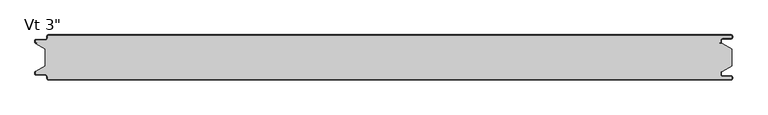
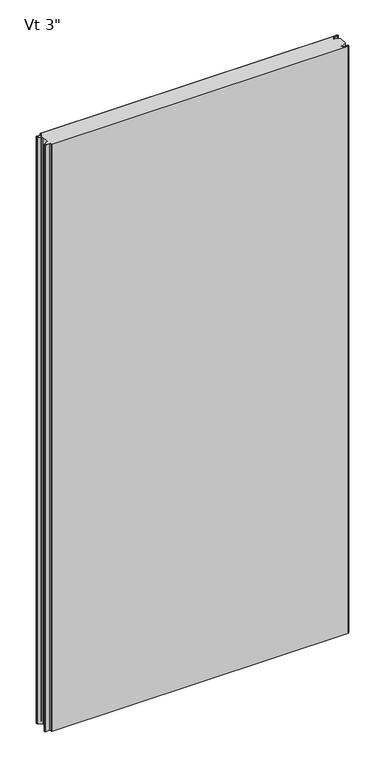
"""IFC4 building model written with IfcOpenShell, lengths in millimetres: plate geometry."""

from ifc_helpers import new_model, si_unit, frame, origin, place, context, project, spatial, polyline, circle_curve, source, transform, mapped, element, save
from ifc_brep_helpers import plane_surface, cylinder_surface, revolved_surface, advanced_brep


def plate_3d51e600(model_context):
    return source(origin(), model_context, "Body", "AdvancedBrep", [
        advanced_brep(
        [(-572.4125501, -73.2227194, 2400.0), (-570.4352761, -75.1999935, 2400.0), (574.5475652, -75.2, 2400.0), (576.5248337, -73.2227315, 2400.0), (576.5248337, -72.1806329, 2400.0), (574.5475652, -70.2033643, 2400.0), (560.3591802, -70.2033643, 2400.0), (557.7713036, -67.6154878, 2400.0), (557.7713036, -63.2950697, 2400.0), (557.1628365, -62.7060762, 2400.0), (554.7857432, -62.7060762, 2400.0), (554.7857432, -61.7066023, 2400.0), (560.2280123, -61.7066023, 2400.0), (576.2625, -52.4490865, 2400.0), (576.2625, -23.7509179, 2400.0), (560.2280123, -14.4933977, 2400.0), (554.7857432, -14.4933977, 2400.0), (554.7857432, -13.4939238, 2400.0), (557.1628365, -13.4939238, 2400.0), (557.7713036, -12.9049303, 2400.0), (557.7713036, -8.5845122, 2400.0), (560.3591802, -5.9966357, 2400.0), (574.5475652, -5.9966357, 2400.0), (576.5248337, -4.0193671, 2400.0), (576.5248337, -2.9772685, 2400.0), (574.5475652, -1.0, 2400.0), (-570.4352761, -1.0, 2400.0), (-572.4125501, -2.9772806, 2400.0), (-572.4125501, -5.2691705, 2400.0), (-576.3898173, -9.2464377, 2400.0), (-591.9862417, -9.2464377, 2400.0), (-592.5741186, -9.8343146, 2400.0), (-592.5741186, -12.9058635, 2400.0), (-591.986242, -13.4937402, 2400.0), (-589.6312064, -13.4937402, 2400.0), (-589.6312064, -14.4937402, 2400.0), (-591.9207851, -14.4937402, 2400.0), (-576.2625, -23.7509135, 2400.0), (-576.2625, -52.4490865, 2400.0), (-591.9207851, -61.7062598, 2400.0), (-589.6312064, -61.7062598, 2400.0), (-589.6312064, -62.7062598, 2400.0), (-591.986242, -62.7062598, 2400.0), (-592.5741186, -63.2941365, 2400.0), (-592.5741186, -66.3656854, 2400.0), (-591.9862417, -66.9535623, 2400.0), (-576.3898173, -66.9535623, 2400.0), (-572.4125501, -70.9308295, 2400.0), (-572.4125501, -73.2227194, 0.0), (-572.4125501, -70.9308295, 0.0), (-576.3898173, -66.9535623, 0.0), (-591.9862417, -66.9535623, 0.0), (-592.5741186, -66.3656854, 0.0), (-592.5741186, -63.2941365, 0.0), (-591.986242, -62.7062598, 0.0), (-589.6312064, -62.7062598, 0.0), (-589.6312064, -61.7062598, 0.0), (-591.9207851, -61.7062598, 0.0), (-576.2625, -52.4490865, 0.0), (-576.2625, -23.7509179, 0.0), (-591.9207851, -14.4937402, 0.0), (-589.6312064, -14.4937402, 0.0), (-589.6312064, -13.4937402, 0.0), (-591.986242, -13.4937402, 0.0), (-592.5741186, -12.9058635, 0.0), (-592.5741186, -9.8343146, 0.0), (-591.9862417, -9.2464377, 0.0), (-576.3898173, -9.2464377, 0.0), (-572.4125501, -5.2691705, 0.0), (-572.4125501, -2.9772806, 0.0), (-570.4352761, -1.0000065, 0.0), (574.5475652, -1.0, 0.0), (576.5248337, -2.9772685, 0.0), (576.5248337, -4.0193671, 0.0), (574.5475652, -5.9966357, 0.0), (560.3591802, -5.9966357, 0.0), (557.7713036, -8.5845122, 0.0), (557.7713036, -12.9049303, 0.0), (557.1628365, -13.4939238, 0.0), (554.7857432, -13.4939238, 0.0), (554.7857432, -14.4933977, 0.0), (560.2280123, -14.4933977, 0.0), (576.2625, -23.7509135, 0.0), (576.2625, -52.4490865, 0.0), (560.2280123, -61.7066023, 0.0), (554.7857432, -61.7066023, 0.0), (554.7857432, -62.7060762, 0.0), (557.1628365, -62.7060762, 0.0), (557.7713036, -63.2950697, 0.0), (557.7713036, -67.6154878, 0.0), (560.3591802, -70.2033643, 0.0), (574.5475652, -70.2033643, 0.0), (576.5248337, -72.1806329, 0.0), (576.5248337, -73.2227315, 0.0), (574.5475652, -75.2, 0.0), (-570.4352761, -75.2, 0.0)],
        [
            (0, 1, circle_curve(frame((-570.4352761, -73.2227194, 2400.0), z_axis=(0.0, 0.0, 1.0), x_axis=(-1.0, 0.0, 0.0)), 1.977274)),
            (1, 2),
            (2, 3, circle_curve(frame((574.5475652, -73.2227315, 2400.0), z_axis=(0.0, 0.0, 1.0), x_axis=(-1.0, 0.0, 0.0)), 1.9772685)),
            (3, 4),
            (4, 5, circle_curve(frame((574.5475652, -72.1806329, 2400.0), z_axis=(0.0, 0.0, 1.0), x_axis=(-1.0, 0.0, 0.0)), 1.9772685)),
            (5, 6),
            (6, 7, circle_curve(frame((560.3591802, -67.6154878, 2400.0), z_axis=(0.0, 0.0, -1.0), x_axis=(-1.0, 0.0, 0.0)), 2.5878765)),
            (7, 8),
            (8, 9, circle_curve(frame((557.1819985, -63.2950697, 2400.0), z_axis=(0.0, 0.0, 1.0), x_axis=(-1.0, 0.0, 0.0)), 0.5893051)),
            (9, 10),
            (10, 11),
            (11, 12),
            (12, 13),
            (13, 14),
            (14, 15),
            (15, 16),
            (16, 17),
            (17, 18),
            (18, 19, circle_curve(frame((557.1819985, -12.9049303, 2400.0), z_axis=(0.0, 0.0, 1.0), x_axis=(0.0, 1.0, 0.0)), 0.5893051)),
            (19, 20),
            (20, 21, circle_curve(frame((560.3591802, -8.5845122, 2400.0), z_axis=(0.0, 0.0, -1.0), x_axis=(0.0, 1.0, 0.0)), 2.5878765)),
            (21, 22),
            (22, 23, circle_curve(frame((574.5475652, -4.0193671, 2400.0), z_axis=(0.0, 0.0, 1.0), x_axis=(0.0, 1.0, 0.0)), 1.9772685)),
            (23, 24),
            (24, 25, circle_curve(frame((574.5475652, -2.9772685, 2400.0), z_axis=(0.0, 0.0, 1.0), x_axis=(0.0, 1.0, 0.0)), 1.9772685)),
            (25, 26),
            (26, 27, circle_curve(frame((-570.4352761, -2.9772806, 2400.0), z_axis=(0.0, 0.0, 1.0), x_axis=(0.0, 1.0, 0.0)), 1.977274)),
            (27, 28),
            (28, 29, circle_curve(frame((-576.3898173, -5.2691705, 2400.0), z_axis=(0.0, 0.0, -1.0), x_axis=(0.0, 1.0, 0.0)), 3.9772671)),
            (29, 30),
            (30, 31, circle_curve(frame((-591.9862417, -9.8343146, 2400.0), z_axis=(0.0, 0.0, 1.0), x_axis=(0.0, 1.0, 0.0)), 0.5878769)),
            (31, 32),
            (32, 33, circle_curve(frame((-591.986242, -12.9058635, 2400.0), z_axis=(0.0, 0.0, 1.0), x_axis=(0.0, 1.0, 0.0)), 0.5878766)),
            (33, 34),
            (34, 35),
            (35, 36),
            (36, 37),
            (37, 38),
            (38, 39),
            (39, 40),
            (40, 41),
            (41, 42),
            (42, 43, circle_curve(frame((-591.986242, -63.2941365, 2400.0), z_axis=(0.0, 0.0, 1.0), x_axis=(-1.0, 0.0, 0.0)), 0.5878766)),
            (43, 44),
            (44, 45, circle_curve(frame((-591.9862417, -66.3656854, 2400.0), z_axis=(0.0, 0.0, 1.0), x_axis=(-1.0, 0.0, 0.0)), 0.5878769)),
            (45, 46),
            (46, 47, circle_curve(frame((-576.3898173, -70.9308295, 2400.0), z_axis=(0.0, 0.0, -1.0), x_axis=(-1.0, 0.0, 0.0)), 3.9772671)),
            (47, 0),
            (48, 49),
            (49, 50, circle_curve(frame((-576.3898173, -70.9308295, 0.0), z_axis=(0.0, 0.0, 1.0), x_axis=(-1.0, 0.0, 0.0)), 3.9772671)),
            (50, 51),
            (51, 52, circle_curve(frame((-591.9862417, -66.3656854, 0.0), z_axis=(0.0, 0.0, -1.0), x_axis=(-1.0, 0.0, 0.0)), 0.5878769)),
            (52, 53),
            (53, 54, circle_curve(frame((-591.986242, -63.2941365, 0.0), z_axis=(0.0, 0.0, -1.0), x_axis=(-1.0, 0.0, 0.0)), 0.5878766)),
            (54, 55),
            (55, 56),
            (56, 57),
            (57, 58),
            (58, 59),
            (59, 60),
            (60, 61),
            (61, 62),
            (62, 63),
            (63, 64, circle_curve(frame((-591.986242, -12.9058635, 0.0), z_axis=(0.0, 0.0, -1.0), x_axis=(0.0, 1.0, 0.0)), 0.5878766)),
            (64, 65),
            (65, 66, circle_curve(frame((-591.9862417, -9.8343146, 0.0), z_axis=(0.0, 0.0, -1.0), x_axis=(0.0, 1.0, 0.0)), 0.5878769)),
            (66, 67),
            (67, 68, circle_curve(frame((-576.3898173, -5.2691705, 0.0), z_axis=(0.0, 0.0, 1.0), x_axis=(0.0, 1.0, 0.0)), 3.9772671)),
            (68, 69),
            (69, 70, circle_curve(frame((-570.4352761, -2.9772806, 0.0), z_axis=(0.0, 0.0, -1.0), x_axis=(0.0, 1.0, 0.0)), 1.977274)),
            (70, 71),
            (71, 72, circle_curve(frame((574.5475652, -2.9772685, 0.0), z_axis=(0.0, 0.0, -1.0), x_axis=(0.0, 1.0, 0.0)), 1.9772685)),
            (72, 73),
            (73, 74, circle_curve(frame((574.5475652, -4.0193671, 0.0), z_axis=(0.0, 0.0, -1.0), x_axis=(0.0, 1.0, 0.0)), 1.9772685)),
            (74, 75),
            (75, 76, circle_curve(frame((560.3591802, -8.5845122, 0.0), z_axis=(0.0, 0.0, 1.0), x_axis=(0.0, 1.0, 0.0)), 2.5878765)),
            (76, 77),
            (77, 78, circle_curve(frame((557.1819985, -12.9049303, 0.0), z_axis=(0.0, 0.0, -1.0), x_axis=(0.0, 1.0, 0.0)), 0.5893051)),
            (78, 79),
            (79, 80),
            (80, 81),
            (81, 82),
            (82, 83),
            (83, 84),
            (84, 85),
            (85, 86),
            (86, 87),
            (87, 88, circle_curve(frame((557.1819985, -63.2950697, 0.0), z_axis=(0.0, 0.0, -1.0), x_axis=(-1.0, 0.0, 0.0)), 0.5893051)),
            (88, 89),
            (89, 90, circle_curve(frame((560.3591802, -67.6154878, 0.0), z_axis=(0.0, 0.0, 1.0), x_axis=(-1.0, 0.0, 0.0)), 2.5878765)),
            (90, 91),
            (91, 92, circle_curve(frame((574.5475652, -72.1806329, 0.0), z_axis=(0.0, 0.0, -1.0), x_axis=(-1.0, 0.0, 0.0)), 1.9772685)),
            (92, 93),
            (93, 94, circle_curve(frame((574.5475652, -73.2227315, 0.0), z_axis=(0.0, 0.0, -1.0), x_axis=(-1.0, 0.0, 0.0)), 1.9772685)),
            (94, 95),
            (95, 48, circle_curve(frame((-570.4352761, -73.2227194, 0.0), z_axis=(0.0, 0.0, -1.0), x_axis=(-1.0, 0.0, 0.0)), 1.977274)),
            (37, 59),
            (58, 38),
            (13, 83),
            (82, 14),
            (47, 49),
            (48, 0),
            (46, 50),
            (45, 51),
            (44, 52),
            (43, 53),
            (42, 54),
            (41, 55),
            (40, 56),
            (39, 57),
            (12, 84),
            (11, 85),
            (10, 86),
            (9, 87),
            (8, 88),
            (7, 89),
            (6, 90),
            (5, 91),
            (4, 92),
            (3, 93),
            (2, 94),
            (1, 95),
            (26, 70),
            (69, 27),
            (25, 71),
            (24, 72),
            (23, 73),
            (22, 74),
            (21, 75),
            (20, 76),
            (19, 77),
            (18, 78),
            (17, 79),
            (16, 80),
            (15, 81),
            (36, 60),
            (35, 61),
            (34, 62),
            (33, 63),
            (32, 64),
            (31, 65),
            (30, 66),
            (29, 67),
            (28, 68),
        ],
        [
            plane_surface(frame((0.0, -75.2, 2400.0), z_axis=(0.0, 0.0, 1.0), x_axis=(0.0, -1.0, 0.0))),
            plane_surface(frame((0.0, -75.2, 0.0), z_axis=(0.0, 0.0, -1.0), x_axis=(0.0, -1.0, 0.0))),
            plane_surface(frame((-576.2625, -52.4490865, 2400.0), z_axis=(-1.0, 0.0, 0.0), x_axis=(0.0, 0.0, -1.0))),
            plane_surface(frame((576.2625, -23.7509179, 2400.0), z_axis=(1.0, 0.0, 0.0), x_axis=(0.0, 0.0, -1.0))),
            plane_surface(frame((-572.4125501, -73.2227194, 2400.0), z_axis=(-1.0, 0.0, 0.0), x_axis=(0.0, 0.0, -1.0))),
            revolved_surface(polyline([(-580.3670844, -70.9308295, 0.0), (-580.3670844, -70.9308295, 2400.0)]), (-576.3898173, -70.9308295, 2400.0), (0.0, 0.0, -1.0)),
            plane_surface(frame((-576.3898173, -66.9535623, 2400.0), z_axis=(0.0, -1.0, 0.0), x_axis=(0.0, 0.0, -1.0))),
            cylinder_surface(frame((-591.9862417, -66.3656854, 2400.0), z_axis=(0.0, 0.0, 1.0), x_axis=(-1.0, 0.0, 0.0)), 0.5878769),
            plane_surface(frame((-592.5741186, -66.3656854, 2400.0), z_axis=(-1.0, 0.0, 0.0), x_axis=(0.0, 0.0, -1.0))),
            cylinder_surface(frame((-591.986242, -63.2941365, 2400.0), z_axis=(0.0, 0.0, 1.0), x_axis=(-1.0, 0.0, 0.0)), 0.5878766),
            plane_surface(frame((-591.986242, -62.7062598, 2400.0), z_axis=(0.0, 1.0, 0.0), x_axis=(0.0, 0.0, -1.0))),
            plane_surface(frame((-589.6312064, -62.7062598, 2400.0), z_axis=(-1.0, 0.0, 0.0), x_axis=(0.0, 0.0, -1.0))),
            plane_surface(frame((-589.6312064, -61.7062598, 2400.0), z_axis=(0.0, -1.0, 0.0), x_axis=(0.0, 0.0, -1.0))),
            plane_surface(frame((-591.9207851, -61.7062598, 2400.0), z_axis=(-0.5089147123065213, 0.860816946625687, 0.0), x_axis=(0.0, 0.0, -1.0))),
            plane_surface(frame((576.2625, -52.4490865, 2400.0), z_axis=(0.500000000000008, -0.866025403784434, 0.0), x_axis=(0.0, 0.0, -1.0))),
            plane_surface(frame((560.2280123, -61.7066023, 2400.0), z_axis=(0.0, -1.0, 0.0), x_axis=(0.0, 0.0, -1.0))),
            plane_surface(frame((554.7857432, -61.7066023, 2400.0), z_axis=(1.0, 0.0, 0.0), x_axis=(0.0, 0.0, -1.0))),
            plane_surface(frame((554.7857432, -62.7060762, 2400.0), z_axis=(0.0, 1.0, 0.0), x_axis=(0.0, 0.0, -1.0))),
            cylinder_surface(frame((557.1819985, -63.2950697, 2400.0), z_axis=(0.0, 0.0, 1.0), x_axis=(-1.0, 0.0, 0.0)), 0.5893051),
            plane_surface(frame((557.7713036, -63.2950697, 2400.0), z_axis=(1.0, 0.0, 0.0), x_axis=(0.0, 0.0, -1.0))),
            revolved_surface(polyline([(557.7713037, -67.6154878, 0.0), (557.7713037, -67.6154878, 2400.0)]), (560.3591802, -67.6154878, 2400.0), (0.0, 0.0, -1.0)),
            plane_surface(frame((560.3591802, -70.2033643, 2400.0), z_axis=(0.0, 1.0, 0.0), x_axis=(0.0, 0.0, -1.0))),
            cylinder_surface(frame((574.5475652, -72.1806329, 2400.0), z_axis=(0.0, 0.0, 1.0), x_axis=(-1.0, 0.0, 0.0)), 1.9772685),
            plane_surface(frame((576.5248337, -72.1806329, 2400.0), z_axis=(1.0, 0.0, 0.0), x_axis=(0.0, 0.0, -1.0))),
            cylinder_surface(frame((574.5475652, -73.2227315, 2400.0), z_axis=(0.0, 0.0, 1.0), x_axis=(-1.0, 0.0, 0.0)), 1.9772685),
            plane_surface(frame((574.5475652, -75.2, 2400.0), z_axis=(0.0, -1.0, 0.0), x_axis=(0.0, 0.0, -1.0))),
            cylinder_surface(frame((-570.4352761, -73.2227194, 2400.0), z_axis=(0.0, 0.0, 1.0), x_axis=(-1.0, 0.0, 0.0)), 1.977274),
            cylinder_surface(frame((-570.4352761, -2.9772806, 2400.0), z_axis=(0.0, 0.0, 1.0), x_axis=(0.0, 1.0, 0.0)), 1.977274),
            plane_surface(frame((-570.4352761, -1.0, 2400.0), z_axis=(0.0, 1.0, 0.0), x_axis=(0.0, 0.0, -1.0))),
            cylinder_surface(frame((574.5475652, -2.9772685, 2400.0), z_axis=(0.0, 0.0, 1.0), x_axis=(0.0, 1.0, 0.0)), 1.9772685),
            plane_surface(frame((576.5248337, -2.9772685, 2400.0), z_axis=(1.0, 0.0, 0.0), x_axis=(0.0, 0.0, -1.0))),
            cylinder_surface(frame((574.5475652, -4.0193671, 2400.0), z_axis=(0.0, 0.0, 1.0), x_axis=(0.0, 1.0, 0.0)), 1.9772685),
            plane_surface(frame((574.5475652, -5.9966357, 2400.0), z_axis=(0.0, -1.0, 0.0), x_axis=(0.0, 0.0, -1.0))),
            revolved_surface(polyline([(560.3591802, -5.996635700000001, 0.0), (560.3591802, -5.996635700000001, 2400.0)]), (560.3591802, -8.5845122, 2400.0), (0.0, 0.0, -1.0)),
            plane_surface(frame((557.7713036, -8.5845122, 2400.0), z_axis=(1.0, 0.0, 0.0), x_axis=(0.0, 0.0, -1.0))),
            cylinder_surface(frame((557.1819985, -12.9049303, 2400.0), z_axis=(0.0, 0.0, 1.0), x_axis=(0.0, 1.0, 0.0)), 0.5893051),
            plane_surface(frame((557.1628365, -13.4939238, 2400.0), z_axis=(0.0, -1.0, 0.0), x_axis=(0.0, 0.0, -1.0))),
            plane_surface(frame((554.7857432, -13.4939238, 2400.0), z_axis=(1.0, 0.0, 0.0), x_axis=(0.0, 0.0, -1.0))),
            plane_surface(frame((554.7857432, -14.4933977, 2400.0), z_axis=(0.0, 1.0, 0.0), x_axis=(0.0, 0.0, -1.0))),
            plane_surface(frame((560.2280123, -14.4933977, 2400.0), z_axis=(0.5000000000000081, 0.866025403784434, 0.0), x_axis=(0.0, 0.0, -1.0))),
            plane_surface(frame((-576.2625, -23.7509135, 2400.0), z_axis=(-0.5089147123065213, -0.860816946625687, 0.0), x_axis=(0.0, 0.0, -1.0))),
            plane_surface(frame((-591.9207851, -14.4937402, 2400.0), z_axis=(0.0, 1.0, 0.0), x_axis=(0.0, 0.0, -1.0))),
            plane_surface(frame((-589.6312064, -14.4937402, 2400.0), z_axis=(-1.0, 0.0, 0.0), x_axis=(0.0, 0.0, -1.0))),
            plane_surface(frame((-589.6312064, -13.4937402, 2400.0), z_axis=(0.0, -1.0, 0.0), x_axis=(0.0, 0.0, -1.0))),
            cylinder_surface(frame((-591.986242, -12.9058635, 2400.0), z_axis=(0.0, 0.0, 1.0), x_axis=(0.0, 1.0, 0.0)), 0.5878766),
            plane_surface(frame((-592.5741186, -12.9058635, 2400.0), z_axis=(-1.0, 0.0, 0.0), x_axis=(0.0, 0.0, -1.0))),
            cylinder_surface(frame((-591.9862417, -9.8343146, 2400.0), z_axis=(0.0, 0.0, 1.0), x_axis=(0.0, 1.0, 0.0)), 0.5878769),
            plane_surface(frame((-591.9862417, -9.2464377, 2400.0), z_axis=(0.0, 1.0, 0.0), x_axis=(0.0, 0.0, -1.0))),
            revolved_surface(polyline([(-576.3898173, -1.2919034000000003, 0.0), (-576.3898173, -1.2919034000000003, 2400.0)]), (-576.3898173, -5.2691705, 2400.0), (0.0, 0.0, -1.0)),
            plane_surface(frame((-572.4125501, -5.2691705, 2400.0), z_axis=(-1.0, 0.0, 0.0), x_axis=(0.0, 0.0, -1.0))),
        ],
        [
            (0, [[1, 2, 3, 4, 5, 6, 7, 8, 9, 10, 11, 12, 13, 14, 15, 16, 17, 18, 19, 20, 21, 22, 23, 24, 25, 26, 27, 28, 29, 30, 31, 32, 33, 34, 35, 36, 37, 38, 39, 40, 41, 42, 43, 44, 45, 46, 47, 48]]),
            (1, [[49, 50, 51, 52, 53, 54, 55, 56, 57, 58, 59, 60, 61, 62, 63, 64, 65, 66, 67, 68, 69, 70, 71, 72, 73, 74, 75, 76, 77, 78, 79, 80, 81, 82, 83, 84, 85, 86, 87, 88, 89, 90, 91, 92, 93, 94, 95, 96]]),
            (2, [[97, -59, 98, -38]]),
            (3, [[99, -83, 100, -14]]),
            (4, [[101, -49, 102, -48]]),
            (5, [[103, -50, -101, -47]]),
            (6, [[104, -51, -103, -46]]),
            (7, [[105, -52, -104, -45]]),
            (8, [[106, -53, -105, -44]]),
            (9, [[107, -54, -106, -43]]),
            (10, [[108, -55, -107, -42]]),
            (11, [[109, -56, -108, -41]]),
            (12, [[110, -57, -109, -40]]),
            (13, [[-98, -58, -110, -39]]),
            (14, [[111, -84, -99, -13]]),
            (15, [[112, -85, -111, -12]]),
            (16, [[113, -86, -112, -11]]),
            (17, [[114, -87, -113, -10]]),
            (18, [[115, -88, -114, -9]]),
            (19, [[116, -89, -115, -8]]),
            (20, [[117, -90, -116, -7]]),
            (21, [[118, -91, -117, -6]]),
            (22, [[119, -92, -118, -5]]),
            (23, [[120, -93, -119, -4]]),
            (24, [[121, -94, -120, -3]]),
            (25, [[122, -95, -121, -2]]),
            (26, [[-102, -96, -122, -1]]),
            (27, [[123, -70, 124, -27]]),
            (28, [[125, -71, -123, -26]]),
            (29, [[126, -72, -125, -25]]),
            (30, [[127, -73, -126, -24]]),
            (31, [[128, -74, -127, -23]]),
            (32, [[129, -75, -128, -22]]),
            (33, [[130, -76, -129, -21]]),
            (34, [[131, -77, -130, -20]]),
            (35, [[132, -78, -131, -19]]),
            (36, [[133, -79, -132, -18]]),
            (37, [[134, -80, -133, -17]]),
            (38, [[135, -81, -134, -16]]),
            (39, [[-100, -82, -135, -15]]),
            (40, [[136, -60, -97, -37]]),
            (41, [[137, -61, -136, -36]]),
            (42, [[138, -62, -137, -35]]),
            (43, [[139, -63, -138, -34]]),
            (44, [[140, -64, -139, -33]]),
            (45, [[141, -65, -140, -32]]),
            (46, [[142, -66, -141, -31]]),
            (47, [[143, -67, -142, -30]]),
            (48, [[144, -68, -143, -29]]),
            (49, [[-124, -69, -144, -28]]),
        ],
    ),
        advanced_brep(
        [(-572.4123937, -2.9776189, 2400.0), (-570.4354837, -1.0007088, 2400.0), (574.550337, -1.0007088, 2400.0), (576.5262182, -2.97659, 2400.0), (576.5262182, -4.019022, 2400.0), (574.5482568, -5.9969834, 2400.0), (560.3590971, -5.9969834, 2400.0), (557.7713971, -8.5846834, 2400.0), (557.7713971, -12.9049158, 2400.0), (557.1628599, -13.4939528, 2400.0), (554.7857432, -13.4939528, 2400.0), (554.7857432, -14.4933977, 2400.0), (557.1304042, -14.4933977, 2400.0), (558.7713036, -12.9049303, 2400.0), (558.7713036, -8.5845122, 2400.0), (560.3591801, -6.9966356, 2400.0), (574.5475652, -6.9966356, 2400.0), (577.5248337, -4.0193671, 2400.0), (577.5248337, -2.9772685, 2400.0), (574.5475652, 0.0, 2400.0), (-570.4352789, 0.0, 2400.0), (-573.4125474, -2.977286, 2400.0), (-573.4125474, -5.2691698, 2400.0), (-576.3898159, -8.2464384, 2400.0), (-591.9862419, -8.2464384, 2400.0), (-593.5741185, -9.8343149, 2400.0), (-593.5741185, -12.9058636, 2400.0), (-591.9862419, -14.4937401, 2400.0), (-589.6312064, -14.4937401, 2400.0), (-589.6312064, -13.4937365, 2400.0), (-591.9862374, -13.4937365, 2400.0), (-592.5741086, -12.9058654, 2400.0), (-592.5741086, -9.834334, 2400.0), (-591.9862514, -9.2464768, 2400.0), (-576.3897391, -9.2464768, 2400.0), (-572.4123937, -5.2691315, 2400.0), (-572.4123937, -2.9776189, 0.0), (-572.4123937, -5.2691315, 0.0), (-576.3897391, -9.2464768, 0.0), (-591.9862514, -9.2464768, 0.0), (-592.5741086, -9.834334, 0.0), (-592.5741086, -12.9058654, 0.0), (-591.9862374, -13.4937365, 0.0), (-589.6312064, -13.4937365, 0.0), (-589.6312064, -14.4937401, 0.0), (-591.9862419, -14.4937401, 0.0), (-593.5741185, -12.9058636, 0.0), (-593.5741185, -9.8343149, 0.0), (-591.9862419, -8.2464384, 0.0), (-576.3898159, -8.2464384, 0.0), (-573.4125474, -5.2691698, 0.0), (-573.4125474, -2.977286, 0.0), (-570.4352789, -1.75e-05, 0.0), (574.5475652, 0.0, 0.0), (577.5248337, -2.9772685, 0.0), (577.5248337, -4.0193671, 0.0), (574.5475652, -6.9966356, 0.0), (560.3591801, -6.9966356, 0.0), (558.7713036, -8.5845122, 0.0), (558.7713036, -12.9049303, 0.0), (557.1304042, -14.4933977, 0.0), (554.7857432, -14.4933977, 0.0), (554.7857432, -13.4939528, 0.0), (557.1628599, -13.4939528, 0.0), (557.7713971, -12.9049158, 0.0), (557.7713971, -8.5846834, 0.0), (560.3590971, -5.9969834, 0.0), (574.5482568, -5.9969834, 0.0), (576.5262182, -4.019022, 0.0), (576.5262182, -2.97659, 0.0), (574.550337, -1.0007088, 0.0), (-570.4354837, -1.0007088, 0.0)],
        [
            (0, 1, circle_curve(frame((-570.4354837, -2.9776189, 2400.0), z_axis=(0.0, 0.0, -1.0), x_axis=(0.0, 1.0, 0.0)), 1.9769101)),
            (1, 2),
            (2, 3, circle_curve(frame((574.550337, -2.97659, 2400.0), z_axis=(0.0, 0.0, -1.0), x_axis=(0.0, 1.0, 0.0)), 1.9758812)),
            (3, 4),
            (4, 5, circle_curve(frame((574.5482568, -4.019022, 2400.0), z_axis=(0.0, 0.0, -1.0), x_axis=(0.0, 1.0, 0.0)), 1.9779614)),
            (5, 6),
            (6, 7, circle_curve(frame((560.3590971, -8.5846834, 2400.0), z_axis=(0.0, 0.0, 1.0), x_axis=(0.0, 1.0, 0.0)), 2.5877)),
            (7, 8),
            (8, 9, circle_curve(frame((557.1820477, -12.9049158, 2400.0), z_axis=(0.0, 0.0, -1.0), x_axis=(0.0, 1.0, 0.0)), 0.5893495)),
            (9, 10),
            (10, 11),
            (11, 12),
            (12, 13, circle_curve(frame((557.1819985, -12.9049303, 2400.0), z_axis=(0.0, 0.0, 1.0), x_axis=(0.0, 1.0, 0.0)), 1.5893051)),
            (13, 14),
            (14, 15, circle_curve(frame((560.3591801, -8.5845122, 2400.0), z_axis=(0.0, 0.0, -1.0), x_axis=(0.0, 1.0, 0.0)), 1.5878765)),
            (15, 16),
            (16, 17, circle_curve(frame((574.5475652, -4.0193671, 2400.0), z_axis=(0.0, 0.0, 1.0), x_axis=(0.0, 1.0, 0.0)), 2.9772685)),
            (17, 18),
            (18, 19, circle_curve(frame((574.5475652, -2.9772685, 2400.0), z_axis=(0.0, 0.0, 1.0), x_axis=(0.0, 1.0, 0.0)), 2.9772685)),
            (19, 20),
            (20, 21, circle_curve(frame((-570.4352789, -2.977286, 2400.0), z_axis=(0.0, 0.0, 1.0), x_axis=(0.0, 1.0, 0.0)), 2.9772685)),
            (21, 22),
            (22, 23, circle_curve(frame((-576.3898159, -5.2691698, 2400.0), z_axis=(0.0, 0.0, -1.0), x_axis=(0.0, 1.0, 0.0)), 2.9772685)),
            (23, 24),
            (24, 25, circle_curve(frame((-591.9862419, -9.8343149, 2400.0), z_axis=(0.0, 0.0, 1.0), x_axis=(0.0, 1.0, 0.0)), 1.5878765)),
            (25, 26),
            (26, 27, circle_curve(frame((-591.9862419, -12.9058636, 2400.0), z_axis=(0.0, 0.0, 1.0), x_axis=(0.0, 1.0, 0.0)), 1.5878765)),
            (27, 28),
            (28, 29),
            (29, 30),
            (30, 31, circle_curve(frame((-591.9862374, -12.9058654, 2400.0), z_axis=(0.0, 0.0, -1.0), x_axis=(0.0, 1.0, 0.0)), 0.5878711)),
            (31, 32),
            (32, 33, circle_curve(frame((-591.9862514, -9.834334, 2400.0), z_axis=(0.0, 0.0, -1.0), x_axis=(0.0, 1.0, 0.0)), 0.5878572)),
            (33, 34),
            (34, 35, circle_curve(frame((-576.3897391, -5.2691315, 2400.0), z_axis=(0.0, 0.0, 1.0), x_axis=(0.0, 1.0, 0.0)), 3.9773454)),
            (35, 0),
            (36, 37),
            (37, 38, circle_curve(frame((-576.3897391, -5.2691315, 0.0), z_axis=(0.0, 0.0, -1.0), x_axis=(0.0, 1.0, 0.0)), 3.9773454)),
            (38, 39),
            (39, 40, circle_curve(frame((-591.9862514, -9.834334, 0.0), z_axis=(0.0, 0.0, 1.0), x_axis=(0.0, 1.0, 0.0)), 0.5878572)),
            (40, 41),
            (41, 42, circle_curve(frame((-591.9862374, -12.9058654, 0.0), z_axis=(0.0, 0.0, 1.0), x_axis=(0.0, 1.0, 0.0)), 0.5878711)),
            (42, 43),
            (43, 44),
            (44, 45),
            (45, 46, circle_curve(frame((-591.9862419, -12.9058636, 0.0), z_axis=(0.0, 0.0, -1.0), x_axis=(0.0, 1.0, 0.0)), 1.5878765)),
            (46, 47),
            (47, 48, circle_curve(frame((-591.9862419, -9.8343149, 0.0), z_axis=(0.0, 0.0, -1.0), x_axis=(0.0, 1.0, 0.0)), 1.5878765)),
            (48, 49),
            (49, 50, circle_curve(frame((-576.3898159, -5.2691698, 0.0), z_axis=(0.0, 0.0, 1.0), x_axis=(0.0, 1.0, 0.0)), 2.9772685)),
            (50, 51),
            (51, 52, circle_curve(frame((-570.4352789, -2.977286, 0.0), z_axis=(0.0, 0.0, -1.0), x_axis=(0.0, 1.0, 0.0)), 2.9772685)),
            (52, 53),
            (53, 54, circle_curve(frame((574.5475652, -2.9772685, 0.0), z_axis=(0.0, 0.0, -1.0), x_axis=(0.0, 1.0, 0.0)), 2.9772685)),
            (54, 55),
            (55, 56, circle_curve(frame((574.5475652, -4.0193671, 0.0), z_axis=(0.0, 0.0, -1.0), x_axis=(0.0, 1.0, 0.0)), 2.9772685)),
            (56, 57),
            (57, 58, circle_curve(frame((560.3591801, -8.5845122, 0.0), z_axis=(0.0, 0.0, 1.0), x_axis=(0.0, 1.0, 0.0)), 1.5878765)),
            (58, 59),
            (59, 60, circle_curve(frame((557.1819985, -12.9049303, 0.0), z_axis=(0.0, 0.0, -1.0), x_axis=(0.0, 1.0, 0.0)), 1.5893051)),
            (60, 61),
            (61, 62),
            (62, 63),
            (63, 64, circle_curve(frame((557.1820477, -12.9049158, 0.0), z_axis=(0.0, 0.0, 1.0), x_axis=(0.0, 1.0, 0.0)), 0.5893495)),
            (64, 65),
            (65, 66, circle_curve(frame((560.3590971, -8.5846834, 0.0), z_axis=(0.0, 0.0, -1.0), x_axis=(0.0, 1.0, 0.0)), 2.5877)),
            (66, 67),
            (67, 68, circle_curve(frame((574.5482568, -4.019022, 0.0), z_axis=(0.0, 0.0, 1.0), x_axis=(0.0, 1.0, 0.0)), 1.9779614)),
            (68, 69),
            (69, 70, circle_curve(frame((574.550337, -2.97659, 0.0), z_axis=(0.0, 0.0, 1.0), x_axis=(0.0, 1.0, 0.0)), 1.9758812)),
            (70, 71),
            (71, 36, circle_curve(frame((-570.4354837, -2.9776189, 0.0), z_axis=(0.0, 0.0, 1.0), x_axis=(0.0, 1.0, 0.0)), 1.9769101)),
            (35, 37),
            (36, 0),
            (34, 38),
            (33, 39),
            (32, 40),
            (31, 41),
            (30, 42),
            (29, 43),
            (28, 44),
            (27, 45),
            (26, 46),
            (25, 47),
            (24, 48),
            (23, 49),
            (22, 50),
            (21, 51),
            (20, 52),
            (19, 53),
            (18, 54),
            (17, 55),
            (16, 56),
            (15, 57),
            (14, 58),
            (13, 59),
            (12, 60),
            (11, 61),
            (10, 62),
            (9, 63),
            (8, 64),
            (7, 65),
            (6, 66),
            (5, 67),
            (4, 68),
            (3, 69),
            (2, 70),
            (1, 71),
        ],
        [
            plane_surface(frame((0.0, 0.0, 2400.0), z_axis=(0.0, 0.0, 1.0), x_axis=(0.0, 1.0, 0.0))),
            plane_surface(frame((0.0, 0.0, 0.0), z_axis=(0.0, 0.0, -1.0), x_axis=(0.0, 1.0, 0.0))),
            plane_surface(frame((-572.4123937, -2.9776189, 2400.0), z_axis=(1.0, 0.0, 0.0), x_axis=(0.0, 0.0, -1.0))),
            cylinder_surface(frame((-576.3897391, -5.2691315, 2400.0), z_axis=(0.0, 0.0, 1.0), x_axis=(0.0, 1.0, 0.0)), 3.9773454),
            plane_surface(frame((-576.3897391, -9.2464768, 2400.0), z_axis=(0.0, -1.0, 0.0), x_axis=(0.0, 0.0, -1.0))),
            revolved_surface(polyline([(-591.9862514, -9.2464768, 0.0), (-591.9862514, -9.2464768, 2400.0)]), (-591.9862514, -9.834334, 2400.0), (0.0, 0.0, -1.0)),
            plane_surface(frame((-592.5741086, -9.834334, 2400.0), z_axis=(1.0, 0.0, 0.0), x_axis=(0.0, 0.0, -1.0))),
            revolved_surface(polyline([(-591.9862374, -12.3179943, 0.0), (-591.9862374, -12.3179943, 2400.0)]), (-591.9862374, -12.9058654, 2400.0), (0.0, 0.0, -1.0)),
            plane_surface(frame((-591.9862374, -13.4937365, 2400.0), z_axis=(0.0, 1.0, 0.0), x_axis=(0.0, 0.0, -1.0))),
            plane_surface(frame((-589.6312064, -13.4937365, 2400.0), z_axis=(1.0, 0.0, 0.0), x_axis=(0.0, 0.0, -1.0))),
            plane_surface(frame((-589.6312064, -14.4937401, 2400.0), z_axis=(0.0, -1.0, 0.0), x_axis=(0.0, 0.0, -1.0))),
            cylinder_surface(frame((-591.9862419, -12.9058636, 2400.0), z_axis=(0.0, 0.0, 1.0), x_axis=(0.0, 1.0, 0.0)), 1.5878765),
            plane_surface(frame((-593.5741185, -12.9058636, 2400.0), z_axis=(-1.0, 0.0, 0.0), x_axis=(0.0, 0.0, -1.0))),
            cylinder_surface(frame((-591.9862419, -9.8343149, 2400.0), z_axis=(0.0, 0.0, 1.0), x_axis=(0.0, 1.0, 0.0)), 1.5878765),
            plane_surface(frame((-591.9862419, -8.2464384, 2400.0), z_axis=(0.0, 1.0, 0.0), x_axis=(0.0, 0.0, -1.0))),
            revolved_surface(polyline([(-576.3898159, -2.2919013, 0.0), (-576.3898159, -2.2919013, 2400.0)]), (-576.3898159, -5.2691698, 2400.0), (0.0, 0.0, -1.0)),
            plane_surface(frame((-573.4125474, -5.2691698, 2400.0), z_axis=(-1.0, 0.0, 0.0), x_axis=(0.0, 0.0, -1.0))),
            cylinder_surface(frame((-570.4352789, -2.977286, 2400.0), z_axis=(0.0, 0.0, 1.0), x_axis=(0.0, 1.0, 0.0)), 2.9772685),
            plane_surface(frame((-570.4352789, 0.0, 2400.0), z_axis=(0.0, 1.0, 0.0), x_axis=(0.0, 0.0, -1.0))),
            cylinder_surface(frame((574.5475652, -2.9772685, 2400.0), z_axis=(0.0, 0.0, 1.0), x_axis=(0.0, 1.0, 0.0)), 2.9772685),
            plane_surface(frame((577.5248337, -2.9772685, 2400.0), z_axis=(1.0, 0.0, 0.0), x_axis=(0.0, 0.0, -1.0))),
            cylinder_surface(frame((574.5475652, -4.0193671, 2400.0), z_axis=(0.0, 0.0, 1.0), x_axis=(0.0, 1.0, 0.0)), 2.9772685),
            plane_surface(frame((574.5475652, -6.9966356, 2400.0), z_axis=(0.0, -1.0, 0.0), x_axis=(0.0, 0.0, -1.0))),
            revolved_surface(polyline([(560.3591801, -6.996635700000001, 0.0), (560.3591801, -6.996635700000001, 2400.0)]), (560.3591801, -8.5845122, 2400.0), (0.0, 0.0, -1.0)),
            plane_surface(frame((558.7713036, -8.5845122, 2400.0), z_axis=(1.0, 0.0, 0.0), x_axis=(0.0, 0.0, -1.0))),
            cylinder_surface(frame((557.1819985, -12.9049303, 2400.0), z_axis=(0.0, 0.0, 1.0), x_axis=(0.0, 1.0, 0.0)), 1.5893051),
            plane_surface(frame((557.1304042, -14.4933977, 2400.0), z_axis=(0.0, -1.0, 0.0), x_axis=(0.0, 0.0, -1.0))),
            plane_surface(frame((554.7857432, -14.4933977, 2400.0), z_axis=(-1.0, 0.0, 0.0), x_axis=(0.0, 0.0, -1.0))),
            plane_surface(frame((554.7857432, -13.4939528, 2400.0), z_axis=(0.0, 1.0, 0.0), x_axis=(0.0, 0.0, -1.0))),
            revolved_surface(polyline([(557.1820477, -12.3155663, 0.0), (557.1820477, -12.3155663, 2400.0)]), (557.1820477, -12.9049158, 2400.0), (0.0, 0.0, -1.0)),
            plane_surface(frame((557.7713971, -12.9049158, 2400.0), z_axis=(-1.0, 0.0, 0.0), x_axis=(0.0, 0.0, -1.0))),
            cylinder_surface(frame((560.3590971, -8.5846834, 2400.0), z_axis=(0.0, 0.0, 1.0), x_axis=(0.0, 1.0, 0.0)), 2.5877),
            plane_surface(frame((560.3590971, -5.9969834, 2400.0), z_axis=(0.0, 1.0, 0.0), x_axis=(0.0, 0.0, -1.0))),
            revolved_surface(polyline([(574.5482568, -2.0410606, 0.0), (574.5482568, -2.0410606, 2400.0)]), (574.5482568, -4.019022, 2400.0), (0.0, 0.0, -1.0)),
            plane_surface(frame((576.5262182, -4.019022, 2400.0), z_axis=(-1.0, 0.0, 0.0), x_axis=(0.0, 0.0, -1.0))),
            revolved_surface(polyline([(574.550337, -1.0007088, 0.0), (574.550337, -1.0007088, 2400.0)]), (574.550337, -2.97659, 2400.0), (0.0, 0.0, -1.0)),
            plane_surface(frame((574.550337, -1.0007088, 2400.0), z_axis=(0.0, -1.0, 0.0), x_axis=(0.0, 0.0, -1.0))),
            revolved_surface(polyline([(-570.4354837, -1.0007088, 0.0), (-570.4354837, -1.0007088, 2400.0)]), (-570.4354837, -2.9776189, 2400.0), (0.0, 0.0, -1.0)),
        ],
        [
            (0, [[1, 2, 3, 4, 5, 6, 7, 8, 9, 10, 11, 12, 13, 14, 15, 16, 17, 18, 19, 20, 21, 22, 23, 24, 25, 26, 27, 28, 29, 30, 31, 32, 33, 34, 35, 36]]),
            (1, [[37, 38, 39, 40, 41, 42, 43, 44, 45, 46, 47, 48, 49, 50, 51, 52, 53, 54, 55, 56, 57, 58, 59, 60, 61, 62, 63, 64, 65, 66, 67, 68, 69, 70, 71, 72]]),
            (2, [[73, -37, 74, -36]]),
            (3, [[75, -38, -73, -35]]),
            (4, [[76, -39, -75, -34]]),
            (5, [[77, -40, -76, -33]]),
            (6, [[78, -41, -77, -32]]),
            (7, [[79, -42, -78, -31]]),
            (8, [[80, -43, -79, -30]]),
            (9, [[81, -44, -80, -29]]),
            (10, [[82, -45, -81, -28]]),
            (11, [[83, -46, -82, -27]]),
            (12, [[84, -47, -83, -26]]),
            (13, [[85, -48, -84, -25]]),
            (14, [[86, -49, -85, -24]]),
            (15, [[87, -50, -86, -23]]),
            (16, [[88, -51, -87, -22]]),
            (17, [[89, -52, -88, -21]]),
            (18, [[90, -53, -89, -20]]),
            (19, [[91, -54, -90, -19]]),
            (20, [[92, -55, -91, -18]]),
            (21, [[93, -56, -92, -17]]),
            (22, [[94, -57, -93, -16]]),
            (23, [[95, -58, -94, -15]]),
            (24, [[96, -59, -95, -14]]),
            (25, [[97, -60, -96, -13]]),
            (26, [[98, -61, -97, -12]]),
            (27, [[99, -62, -98, -11]]),
            (28, [[100, -63, -99, -10]]),
            (29, [[101, -64, -100, -9]]),
            (30, [[102, -65, -101, -8]]),
            (31, [[103, -66, -102, -7]]),
            (32, [[104, -67, -103, -6]]),
            (33, [[105, -68, -104, -5]]),
            (34, [[106, -69, -105, -4]]),
            (35, [[107, -70, -106, -3]]),
            (36, [[108, -71, -107, -2]]),
            (37, [[-74, -72, -108, -1]]),
        ],
    ),
        advanced_brep(
        [(-572.4123937, -73.2223811, 2400.0), (-572.4123937, -70.9308685, 2400.0), (-576.3897391, -66.9535232, 2400.0), (-591.9862514, -66.9535232, 2400.0), (-592.5741086, -66.365666, 2400.0), (-592.5741086, -63.2941346, 2400.0), (-591.9862374, -62.7062635, 2400.0), (-589.6312064, -62.7062635, 2400.0), (-589.6312064, -61.7062599, 2400.0), (-591.9862419, -61.7062599, 2400.0), (-593.5741185, -63.2941364, 2400.0), (-593.5741185, -66.3656851, 2400.0), (-591.9862419, -67.9535616, 2400.0), (-576.3898159, -67.9535616, 2400.0), (-573.4125474, -70.9308302, 2400.0), (-573.4125474, -73.222714, 2400.0), (-570.4352789, -76.1999825, 2400.0), (574.5475652, -76.2, 2400.0), (577.5248337, -73.2227315, 2400.0), (577.5248337, -72.1806329, 2400.0), (574.5475652, -69.2033644, 2400.0), (560.3591801, -69.2033644, 2400.0), (558.7713036, -67.6154878, 2400.0), (558.7713036, -63.2950697, 2400.0), (557.1304042, -61.7066023, 2400.0), (554.7857432, -61.7066023, 2400.0), (554.7857432, -62.7060472, 2400.0), (557.1628599, -62.7060472, 2400.0), (557.7713971, -63.2950842, 2400.0), (557.7713971, -67.6153166, 2400.0), (560.3590971, -70.2030166, 2400.0), (574.5482568, -70.2030166, 2400.0), (576.5262182, -72.180978, 2400.0), (576.5262182, -73.22341, 2400.0), (574.550337, -75.1992912, 2400.0), (-570.4354837, -75.1992912, 2400.0), (-572.4123937, -73.2223811, 0.0), (-570.4354837, -75.1992912, 0.0), (574.550337, -75.1992912, 0.0), (576.5262182, -73.22341, 0.0), (576.5262182, -72.180978, 0.0), (574.5482568, -70.2030166, 0.0), (560.3590971, -70.2030166, 0.0), (557.7713971, -67.6153166, 0.0), (557.7713971, -63.2950842, 0.0), (557.1628599, -62.7060472, 0.0), (554.7857432, -62.7060472, 0.0), (554.7857432, -61.7066023, 0.0), (557.1304042, -61.7066023, 0.0), (558.7713036, -63.2950697, 0.0), (558.7713036, -67.6154878, 0.0), (560.3591801, -69.2033644, 0.0), (574.5475652, -69.2033644, 0.0), (577.5248337, -72.1806329, 0.0), (577.5248337, -73.2227315, 0.0), (574.5475652, -76.2, 0.0), (-570.4352789, -76.2, 0.0), (-573.4125474, -73.222714, 0.0), (-573.4125474, -70.9308302, 0.0), (-576.3898159, -67.9535616, 0.0), (-591.9862419, -67.9535616, 0.0), (-593.5741185, -66.3656851, 0.0), (-593.5741185, -63.2941364, 0.0), (-591.9862419, -61.7062599, 0.0), (-589.6312064, -61.7062599, 0.0), (-589.6312064, -62.7062635, 0.0), (-591.9862374, -62.7062635, 0.0), (-592.5741086, -63.2941346, 0.0), (-592.5741086, -66.365666, 0.0), (-591.9862514, -66.9535232, 0.0), (-576.3897391, -66.9535232, 0.0), (-572.4123937, -70.9308685, 0.0)],
        [
            (0, 1),
            (1, 2, circle_curve(frame((-576.3897391, -70.9308685, 2400.0), z_axis=(0.0, 0.0, 1.0), x_axis=(-1.0, 0.0, 0.0)), 3.9773454)),
            (2, 3),
            (3, 4, circle_curve(frame((-591.9862514, -66.365666, 2400.0), z_axis=(0.0, 0.0, -1.0), x_axis=(-1.0, 0.0, 0.0)), 0.5878572)),
            (4, 5),
            (5, 6, circle_curve(frame((-591.9862374, -63.2941346, 2400.0), z_axis=(0.0, 0.0, -1.0), x_axis=(-1.0, 0.0, 0.0)), 0.5878711)),
            (6, 7),
            (7, 8),
            (8, 9),
            (9, 10, circle_curve(frame((-591.9862419, -63.2941364, 2400.0), z_axis=(0.0, 0.0, 1.0), x_axis=(-1.0, 0.0, 0.0)), 1.5878765)),
            (10, 11),
            (11, 12, circle_curve(frame((-591.9862419, -66.3656851, 2400.0), z_axis=(0.0, 0.0, 1.0), x_axis=(-1.0, 0.0, 0.0)), 1.5878765)),
            (12, 13),
            (13, 14, circle_curve(frame((-576.3898159, -70.9308302, 2400.0), z_axis=(0.0, 0.0, -1.0), x_axis=(-1.0, 0.0, 0.0)), 2.9772685)),
            (14, 15),
            (15, 16, circle_curve(frame((-570.4352789, -73.222714, 2400.0), z_axis=(0.0, 0.0, 1.0), x_axis=(-1.0, 0.0, 0.0)), 2.9772685)),
            (16, 17),
            (17, 18, circle_curve(frame((574.5475652, -73.2227315, 2400.0), z_axis=(0.0, 0.0, 1.0), x_axis=(-1.0, 0.0, 0.0)), 2.9772685)),
            (18, 19),
            (19, 20, circle_curve(frame((574.5475652, -72.1806329, 2400.0), z_axis=(0.0, 0.0, 1.0), x_axis=(-1.0, 0.0, 0.0)), 2.9772685)),
            (20, 21),
            (21, 22, circle_curve(frame((560.3591801, -67.6154878, 2400.0), z_axis=(0.0, 0.0, -1.0), x_axis=(-1.0, 0.0, 0.0)), 1.5878765)),
            (22, 23),
            (23, 24, circle_curve(frame((557.1819985, -63.2950697, 2400.0), z_axis=(0.0, 0.0, 1.0), x_axis=(-1.0, 0.0, 0.0)), 1.5893051)),
            (24, 25),
            (25, 26),
            (26, 27),
            (27, 28, circle_curve(frame((557.1820477, -63.2950842, 2400.0), z_axis=(0.0, 0.0, -1.0), x_axis=(-1.0, 0.0, 0.0)), 0.5893495)),
            (28, 29),
            (29, 30, circle_curve(frame((560.3590971, -67.6153166, 2400.0), z_axis=(0.0, 0.0, 1.0), x_axis=(-1.0, 0.0, 0.0)), 2.5877)),
            (30, 31),
            (31, 32, circle_curve(frame((574.5482568, -72.180978, 2400.0), z_axis=(0.0, 0.0, -1.0), x_axis=(-1.0, 0.0, 0.0)), 1.9779614)),
            (32, 33),
            (33, 34, circle_curve(frame((574.550337, -73.22341, 2400.0), z_axis=(0.0, 0.0, -1.0), x_axis=(-1.0, 0.0, 0.0)), 1.9758812)),
            (34, 35),
            (35, 0, circle_curve(frame((-570.4354837, -73.2223811, 2400.0), z_axis=(0.0, 0.0, -1.0), x_axis=(-1.0, 0.0, 0.0)), 1.9769101)),
            (36, 37, circle_curve(frame((-570.4354837, -73.2223811, 0.0), z_axis=(0.0, 0.0, 1.0), x_axis=(-1.0, 0.0, 0.0)), 1.9769101)),
            (37, 38),
            (38, 39, circle_curve(frame((574.550337, -73.22341, 0.0), z_axis=(0.0, 0.0, 1.0), x_axis=(-1.0, 0.0, 0.0)), 1.9758812)),
            (39, 40),
            (40, 41, circle_curve(frame((574.5482568, -72.180978, 0.0), z_axis=(0.0, 0.0, 1.0), x_axis=(-1.0, 0.0, 0.0)), 1.9779614)),
            (41, 42),
            (42, 43, circle_curve(frame((560.3590971, -67.6153166, 0.0), z_axis=(0.0, 0.0, -1.0), x_axis=(-1.0, 0.0, 0.0)), 2.5877)),
            (43, 44),
            (44, 45, circle_curve(frame((557.1820477, -63.2950842, 0.0), z_axis=(0.0, 0.0, 1.0), x_axis=(-1.0, 0.0, 0.0)), 0.5893495)),
            (45, 46),
            (46, 47),
            (47, 48),
            (48, 49, circle_curve(frame((557.1819985, -63.2950697, 0.0), z_axis=(0.0, 0.0, -1.0), x_axis=(-1.0, 0.0, 0.0)), 1.5893051)),
            (49, 50),
            (50, 51, circle_curve(frame((560.3591801, -67.6154878, 0.0), z_axis=(0.0, 0.0, 1.0), x_axis=(-1.0, 0.0, 0.0)), 1.5878765)),
            (51, 52),
            (52, 53, circle_curve(frame((574.5475652, -72.1806329, 0.0), z_axis=(0.0, 0.0, -1.0), x_axis=(-1.0, 0.0, 0.0)), 2.9772685)),
            (53, 54),
            (54, 55, circle_curve(frame((574.5475652, -73.2227315, 0.0), z_axis=(0.0, 0.0, -1.0), x_axis=(-1.0, 0.0, 0.0)), 2.9772685)),
            (55, 56),
            (56, 57, circle_curve(frame((-570.4352789, -73.222714, 0.0), z_axis=(0.0, 0.0, -1.0), x_axis=(-1.0, 0.0, 0.0)), 2.9772685)),
            (57, 58),
            (58, 59, circle_curve(frame((-576.3898159, -70.9308302, 0.0), z_axis=(0.0, 0.0, 1.0), x_axis=(-1.0, 0.0, 0.0)), 2.9772685)),
            (59, 60),
            (60, 61, circle_curve(frame((-591.9862419, -66.3656851, 0.0), z_axis=(0.0, 0.0, -1.0), x_axis=(-1.0, 0.0, 0.0)), 1.5878765)),
            (61, 62),
            (62, 63, circle_curve(frame((-591.9862419, -63.2941364, 0.0), z_axis=(0.0, 0.0, -1.0), x_axis=(-1.0, 0.0, 0.0)), 1.5878765)),
            (63, 64),
            (64, 65),
            (65, 66),
            (66, 67, circle_curve(frame((-591.9862374, -63.2941346, 0.0), z_axis=(0.0, 0.0, 1.0), x_axis=(-1.0, 0.0, 0.0)), 0.5878711)),
            (67, 68),
            (68, 69, circle_curve(frame((-591.9862514, -66.365666, 0.0), z_axis=(0.0, 0.0, 1.0), x_axis=(-1.0, 0.0, 0.0)), 0.5878572)),
            (69, 70),
            (70, 71, circle_curve(frame((-576.3897391, -70.9308685, 0.0), z_axis=(0.0, 0.0, -1.0), x_axis=(-1.0, 0.0, 0.0)), 3.9773454)),
            (71, 36),
            (23, 49),
            (48, 24),
            (22, 50),
            (21, 51),
            (20, 52),
            (19, 53),
            (17, 55),
            (54, 18),
            (32, 40),
            (39, 33),
            (38, 34),
            (16, 56),
            (37, 35),
            (36, 0),
            (71, 1),
            (70, 2),
            (69, 3),
            (4, 68),
            (67, 5),
            (66, 6),
            (65, 7),
            (64, 8),
            (63, 9),
            (62, 10),
            (61, 11),
            (60, 12),
            (59, 13),
            (58, 14),
            (57, 15),
            (31, 41),
            (30, 42),
            (29, 43),
            (28, 44),
            (27, 45),
            (26, 46),
            (25, 47),
        ],
        [
            plane_surface(frame((0.0, -76.2, 2400.0), z_axis=(0.0, 0.0, 1.0), x_axis=(0.0, -1.0, 0.0))),
            plane_surface(frame((0.0, -76.2, 0.0), z_axis=(0.0, 0.0, -1.0), x_axis=(0.0, -1.0, 0.0))),
            cylinder_surface(frame((557.1819985, -63.2950697, 2400.0), z_axis=(0.0, 0.0, 1.0), x_axis=(-1.0, 0.0, 0.0)), 1.5893051),
            plane_surface(frame((558.7713036, -63.2950697, 2400.0), z_axis=(1.0, 0.0, 0.0), x_axis=(0.0, 0.0, -1.0))),
            revolved_surface(polyline([(558.7713036, -67.6154878, 0.0), (558.7713036, -67.6154878, 2400.0)]), (560.3591801, -67.6154878, 2400.0), (0.0, 0.0, -1.0)),
            plane_surface(frame((560.3591801, -69.2033644, 2400.0), z_axis=(0.0, 1.0, 0.0), x_axis=(0.0, 0.0, -1.0))),
            cylinder_surface(frame((574.5475652, -72.1806329, 2400.0), z_axis=(0.0, 0.0, 1.0), x_axis=(-1.0, 0.0, 0.0)), 2.9772685),
            cylinder_surface(frame((574.5475652, -73.2227315, 2400.0), z_axis=(0.0, 0.0, 1.0), x_axis=(-1.0, 0.0, 0.0)), 2.9772685),
            plane_surface(frame((576.5262182, -73.22341, 2400.0), z_axis=(-1.0, 0.0, 0.0), x_axis=(0.0, 0.0, -1.0))),
            plane_surface(frame((577.5248337, -72.1806329, 2400.0), z_axis=(1.0, 0.0, 0.0), x_axis=(0.0, 0.0, -1.0))),
            revolved_surface(polyline([(572.5744558, -73.22341, 0.0), (572.5744558, -73.22341, 2400.0)]), (574.550337, -73.22341, 2400.0), (0.0, 0.0, -1.0)),
            plane_surface(frame((574.5475652, -76.2, 2400.0), z_axis=(0.0, -1.0, 0.0), x_axis=(0.0, 0.0, -1.0))),
            plane_surface(frame((-570.4354837, -75.1992912, 2400.0), z_axis=(0.0, 1.0, 0.0), x_axis=(0.0, 0.0, -1.0))),
            revolved_surface(polyline([(-572.4123938, -73.2223811, 0.0), (-572.4123938, -73.2223811, 2400.0)]), (-570.4354837, -73.2223811, 2400.0), (0.0, 0.0, -1.0)),
            plane_surface(frame((-572.4123937, -70.9308685, 2400.0), z_axis=(1.0, 0.0, 0.0), x_axis=(0.0, 0.0, -1.0))),
            cylinder_surface(frame((-576.3897391, -70.9308685, 2400.0), z_axis=(0.0, 0.0, 1.0), x_axis=(-1.0, 0.0, 0.0)), 3.9773454),
            plane_surface(frame((-591.9862514, -66.9535232, 2400.0), z_axis=(0.0, 1.0, 0.0), x_axis=(0.0, 0.0, -1.0))),
            plane_surface(frame((-592.5741086, -63.2941346, 2400.0), z_axis=(1.0, 0.0, 0.0), x_axis=(0.0, 0.0, -1.0))),
            revolved_surface(polyline([(-592.5741085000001, -63.2941346, 0.0), (-592.5741085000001, -63.2941346, 2400.0)]), (-591.9862374, -63.2941346, 2400.0), (0.0, 0.0, -1.0)),
            plane_surface(frame((-589.6312064, -62.7062635, 2400.0), z_axis=(0.0, -1.0, 0.0), x_axis=(0.0, 0.0, -1.0))),
            plane_surface(frame((-589.6312064, -61.7062599, 2400.0), z_axis=(1.0, 0.0, 0.0), x_axis=(0.0, 0.0, -1.0))),
            plane_surface(frame((-591.9862419, -61.7062599, 2400.0), z_axis=(0.0, 1.0, 0.0), x_axis=(0.0, 0.0, -1.0))),
            cylinder_surface(frame((-591.9862419, -63.2941364, 2400.0), z_axis=(0.0, 0.0, 1.0), x_axis=(-1.0, 0.0, 0.0)), 1.5878765),
            plane_surface(frame((-593.5741185, -66.3656851, 2400.0), z_axis=(-1.0, 0.0, 0.0), x_axis=(0.0, 0.0, -1.0))),
            cylinder_surface(frame((-591.9862419, -66.3656851, 2400.0), z_axis=(0.0, 0.0, 1.0), x_axis=(-1.0, 0.0, 0.0)), 1.5878765),
            plane_surface(frame((-576.3898159, -67.9535616, 2400.0), z_axis=(0.0, -1.0, 0.0), x_axis=(0.0, 0.0, -1.0))),
            revolved_surface(polyline([(-579.3670844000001, -70.9308302, 0.0), (-579.3670844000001, -70.9308302, 2400.0)]), (-576.3898159, -70.9308302, 2400.0), (0.0, 0.0, -1.0)),
            plane_surface(frame((-573.4125474, -73.222714, 2400.0), z_axis=(-1.0, 0.0, 0.0), x_axis=(0.0, 0.0, -1.0))),
            cylinder_surface(frame((-570.4352789, -73.222714, 2400.0), z_axis=(0.0, 0.0, 1.0), x_axis=(-1.0, 0.0, 0.0)), 2.9772685),
            revolved_surface(polyline([(-592.5741086, -66.365666, 0.0), (-592.5741086, -66.365666, 2400.0)]), (-591.9862514, -66.365666, 2400.0), (0.0, 0.0, -1.0)),
            revolved_surface(polyline([(572.5702954, -72.180978, 0.0), (572.5702954, -72.180978, 2400.0)]), (574.5482568, -72.180978, 2400.0), (0.0, 0.0, -1.0)),
            plane_surface(frame((574.5482568, -70.2030166, 2400.0), z_axis=(0.0, -1.0, 0.0), x_axis=(0.0, 0.0, -1.0))),
            cylinder_surface(frame((560.3590971, -67.6153166, 2400.0), z_axis=(0.0, 0.0, 1.0), x_axis=(-1.0, 0.0, 0.0)), 2.5877),
            plane_surface(frame((557.7713971, -67.6153166, 2400.0), z_axis=(-1.0, 0.0, 0.0), x_axis=(0.0, 0.0, -1.0))),
            revolved_surface(polyline([(556.5926982, -63.2950842, 0.0), (556.5926982, -63.2950842, 2400.0)]), (557.1820477, -63.2950842, 2400.0), (0.0, 0.0, -1.0)),
            plane_surface(frame((557.1628599, -62.7060472, 2400.0), z_axis=(0.0, -1.0, 0.0), x_axis=(0.0, 0.0, -1.0))),
            plane_surface(frame((554.7857432, -62.7060472, 2400.0), z_axis=(-1.0, 0.0, 0.0), x_axis=(0.0, 0.0, -1.0))),
            plane_surface(frame((554.7857432, -61.7066023, 2400.0), z_axis=(0.0, 1.0, 0.0), x_axis=(0.0, 0.0, -1.0))),
        ],
        [
            (0, [[1, 2, 3, 4, 5, 6, 7, 8, 9, 10, 11, 12, 13, 14, 15, 16, 17, 18, 19, 20, 21, 22, 23, 24, 25, 26, 27, 28, 29, 30, 31, 32, 33, 34, 35, 36]]),
            (1, [[37, 38, 39, 40, 41, 42, 43, 44, 45, 46, 47, 48, 49, 50, 51, 52, 53, 54, 55, 56, 57, 58, 59, 60, 61, 62, 63, 64, 65, 66, 67, 68, 69, 70, 71, 72]]),
            (2, [[73, -49, 74, -24]]),
            (3, [[75, -50, -73, -23]]),
            (4, [[76, -51, -75, -22]]),
            (5, [[77, -52, -76, -21]]),
            (6, [[78, -53, -77, -20]]),
            (7, [[79, -55, 80, -18]]),
            (8, [[81, -40, 82, -33]]),
            (9, [[-80, -54, -78, -19]]),
            (10, [[-82, -39, 83, -34]]),
            (11, [[84, -56, -79, -17]]),
            (12, [[-83, -38, 85, -35]]),
            (13, [[-85, -37, 86, -36]]),
            (14, [[-86, -72, 87, -1]]),
            (15, [[-87, -71, 88, -2]]),
            (16, [[-88, -70, 89, -3]]),
            (17, [[90, -68, 91, -5]]),
            (18, [[-91, -67, 92, -6]]),
            (19, [[-92, -66, 93, -7]]),
            (20, [[-93, -65, 94, -8]]),
            (21, [[-94, -64, 95, -9]]),
            (22, [[-95, -63, 96, -10]]),
            (23, [[-96, -62, 97, -11]]),
            (24, [[-97, -61, 98, -12]]),
            (25, [[-98, -60, 99, -13]]),
            (26, [[-99, -59, 100, -14]]),
            (27, [[-100, -58, 101, -15]]),
            (28, [[-101, -57, -84, -16]]),
            (29, [[-89, -69, -90, -4]]),
            (30, [[102, -41, -81, -32]]),
            (31, [[103, -42, -102, -31]]),
            (32, [[104, -43, -103, -30]]),
            (33, [[105, -44, -104, -29]]),
            (34, [[106, -45, -105, -28]]),
            (35, [[107, -46, -106, -27]]),
            (36, [[108, -47, -107, -26]]),
            (37, [[-74, -48, -108, -25]]),
        ],
    ),
    ])


if __name__ == "__main__":
    model = new_model("IFC4")
    model_context = context("Model", 3, world=origin())
    ifc_project = project(units=[si_unit("LENGTHUNIT", "METRE", prefix="MILLI")], contexts=[model_context])
    site = spatial("IfcSite", under=ifc_project)
    building = spatial("IfcBuilding", under=site)
    placement = place(None, origin())
    plate_shape = plate_3d51e600(model_context)
    element("IfcPlate", 1, ObjectType="KIP-SLI-FLI-R19-CP-Vt-FL_FL : Vt 3\"", at=placement, inside=building, context=model_context, shape_type="MappedRepresentation", body=[
        mapped(plate_shape, transform((0.0, 0.0, 0.0), x_axis=(1.0, 0.0, 0.0), y_axis=(0.0, 1.0, 0.0), z_axis=(0.0, 0.0, 1.0))),
    ])
    save(model, "model.ifc")
